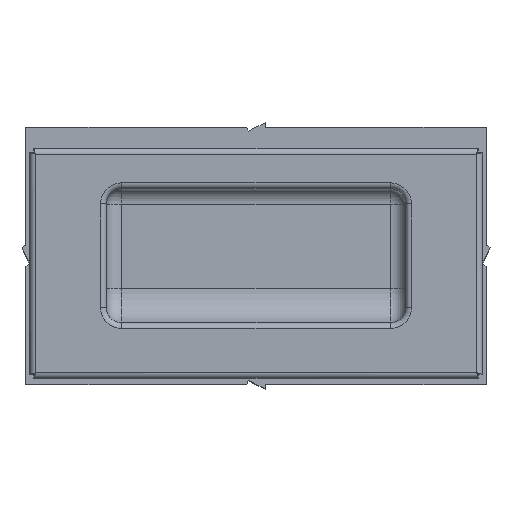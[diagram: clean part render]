
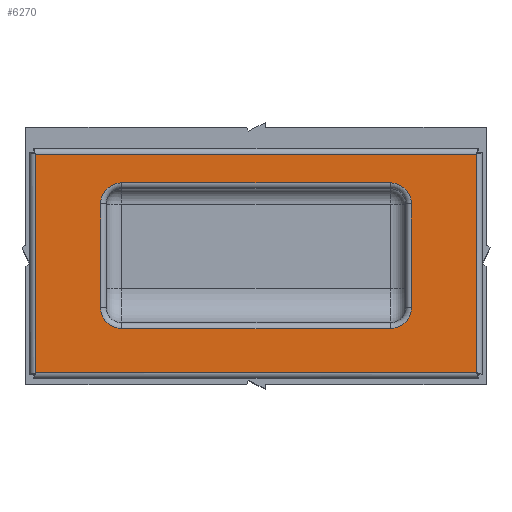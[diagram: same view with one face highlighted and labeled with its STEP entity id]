
A CAD part, top view. The second image highlights one B-rep face of the part: STEP entity #6270.
In plain terms, the highlighted planar face has unit normal (0, 0, 1).
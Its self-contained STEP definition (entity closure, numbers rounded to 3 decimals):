
#109 = VECTOR ( 'NONE', #6902, 1000. ) ;
#476 = VERTEX_POINT ( 'NONE', #10122 ) ;
#500 = LINE ( 'NONE', #9370, #109 ) ;
#526 = ORIENTED_EDGE ( 'NONE', *, *, #5071, .F. ) ;
#536 = EDGE_CURVE ( 'NONE', #12025, #10808, #15576, .T. ) ;
#777 = CARTESIAN_POINT ( 'NONE',  ( -35., -11.5, 0. ) ) ;
#1045 = DIRECTION ( 'NONE',  ( -1., 0., 0. ) ) ;
#1070 = ORIENTED_EDGE ( 'NONE', *, *, #7466, .F. ) ;
#1112 = CIRCLE ( 'NONE', #1736, 5.5 ) ;
#1206 = CARTESIAN_POINT ( 'NONE',  ( -40.5, 15.5, 0. ) ) ;
#1290 = CARTESIAN_POINT ( 'NONE',  ( 0., 0., 0. ) ) ;
#1736 = AXIS2_PLACEMENT_3D ( 'NONE', #15995, #8546, #1045 ) ;
#1941 = VERTEX_POINT ( 'NONE', #9751 ) ;
#2018 = DIRECTION ( 'NONE',  ( -1., 0., 0. ) ) ;
#2605 = EDGE_LOOP ( 'NONE', ( #11609, #12493, #6631, #9257, #526, #1070, #3554, #15631 ) ) ;
#2909 = CARTESIAN_POINT ( 'NONE',  ( -57.5, 28.5, 0. ) ) ;
#3024 = CARTESIAN_POINT ( 'NONE',  ( -35., 21., 0. ) ) ;
#3241 = ORIENTED_EDGE ( 'NONE', *, *, #10577, .T. ) ;
#3554 = ORIENTED_EDGE ( 'NONE', *, *, #7251, .F. ) ;
#3770 = VERTEX_POINT ( 'NONE', #3024 ) ;
#4092 = CARTESIAN_POINT ( 'NONE',  ( 0., 21., 0. ) ) ;
#4478 = LINE ( 'NONE', #4092, #14029 ) ;
#4699 = EDGE_CURVE ( 'NONE', #10808, #5893, #13835, .T. ) ;
#5045 = PLANE ( 'NONE',  #5169 ) ;
#5071 = EDGE_CURVE ( 'NONE', #8101, #3770, #4478, .T. ) ;
#5109 = CARTESIAN_POINT ( 'NONE',  ( 57.5, -28.5, 0. ) ) ;
#5169 = AXIS2_PLACEMENT_3D ( 'NONE', #1290, #13768, #6314 ) ;
#5472 = DIRECTION ( 'NONE',  ( 0., -1., 0. ) ) ;
#5630 = VECTOR ( 'NONE', #13966, 1000. ) ;
#5726 = CARTESIAN_POINT ( 'NONE',  ( -57.5, -28.5, 0. ) ) ;
#5752 = CARTESIAN_POINT ( 'NONE',  ( 0., -17., 0. ) ) ;
#5793 = CARTESIAN_POINT ( 'NONE',  ( 40.5, 15.5, 0. ) ) ;
#5893 = VERTEX_POINT ( 'NONE', #5726 ) ;
#6097 = LINE ( 'NONE', #5109, #9442 ) ;
#6270 = ADVANCED_FACE ( 'NONE', ( #7999, #11700 ), #5045, .F. ) ;
#6314 = DIRECTION ( 'NONE',  ( -1., 0., 0. ) ) ;
#6435 = CARTESIAN_POINT ( 'NONE',  ( 57.5, -28.5, 0. ) ) ;
#6631 = ORIENTED_EDGE ( 'NONE', *, *, #7302, .F. ) ;
#6696 = DIRECTION ( 'NONE',  ( 0., 0., 1. ) ) ;
#6902 = DIRECTION ( 'NONE',  ( 1., 0., 0. ) ) ;
#6967 = CARTESIAN_POINT ( 'NONE',  ( 40.5, 0., 0. ) ) ;
#6982 = CARTESIAN_POINT ( 'NONE',  ( -40.5, -11.5, 0. ) ) ;
#7028 = DIRECTION ( 'NONE',  ( 0., -1., 0. ) ) ;
#7043 = EDGE_CURVE ( 'NONE', #1941, #476, #10897, .T. ) ;
#7251 = EDGE_CURVE ( 'NONE', #476, #8129, #12637, .T. ) ;
#7302 = EDGE_CURVE ( 'NONE', #14895, #12193, #15157, .T. ) ;
#7466 = EDGE_CURVE ( 'NONE', #8129, #8101, #1112, .T. ) ;
#7624 = VECTOR ( 'NONE', #13213, 1000. ) ;
#7882 = DIRECTION ( 'NONE',  ( -1., 0., 0. ) ) ;
#7924 = DIRECTION ( 'NONE',  ( -1., 0., 0. ) ) ;
#7999 = FACE_OUTER_BOUND ( 'NONE', #13254, .T. ) ;
#8101 = VERTEX_POINT ( 'NONE', #10715 ) ;
#8129 = VERTEX_POINT ( 'NONE', #5793 ) ;
#8546 = DIRECTION ( 'NONE',  ( 0., 0., 1. ) ) ;
#8985 = CARTESIAN_POINT ( 'NONE',  ( 57.5, 28.5, 0. ) ) ;
#9257 = ORIENTED_EDGE ( 'NONE', *, *, #15574, .F. ) ;
#9370 = CARTESIAN_POINT ( 'NONE',  ( -57.5, -28.5, 0. ) ) ;
#9442 = VECTOR ( 'NONE', #11347, 1000. ) ;
#9482 = DIRECTION ( 'NONE',  ( 0., 1., 0. ) ) ;
#9524 = DIRECTION ( 'NONE',  ( 0., 0., 1. ) ) ;
#9737 = EDGE_CURVE ( 'NONE', #5893, #13121, #500, .T. ) ;
#9751 = CARTESIAN_POINT ( 'NONE',  ( 35., -17., 0. ) ) ;
#10122 = CARTESIAN_POINT ( 'NONE',  ( 40.5, -11.5, 0. ) ) ;
#10556 = VECTOR ( 'NONE', #5472, 1000. ) ;
#10577 = EDGE_CURVE ( 'NONE', #13121, #12025, #6097, .T. ) ;
#10591 = VERTEX_POINT ( 'NONE', #15089 ) ;
#10715 = CARTESIAN_POINT ( 'NONE',  ( 35., 21., 0. ) ) ;
#10808 = VERTEX_POINT ( 'NONE', #15692 ) ;
#10897 = CIRCLE ( 'NONE', #14891, 5.5 ) ;
#11347 = DIRECTION ( 'NONE',  ( 0., 1., 0. ) ) ;
#11595 = AXIS2_PLACEMENT_3D ( 'NONE', #777, #9524, #2018 ) ;
#11609 = ORIENTED_EDGE ( 'NONE', *, *, #14728, .F. ) ;
#11700 = FACE_BOUND ( 'NONE', #2605, .T. ) ;
#11951 = ORIENTED_EDGE ( 'NONE', *, *, #4699, .T. ) ;
#12025 = VERTEX_POINT ( 'NONE', #14259 ) ;
#12193 = VERTEX_POINT ( 'NONE', #6982 ) ;
#12256 = VECTOR ( 'NONE', #9482, 1000. ) ;
#12493 = ORIENTED_EDGE ( 'NONE', *, *, #15426, .F. ) ;
#12569 = ORIENTED_EDGE ( 'NONE', *, *, #9737, .T. ) ;
#12637 = LINE ( 'NONE', #6967, #12256 ) ;
#12865 = CIRCLE ( 'NONE', #11595, 5.5 ) ;
#13121 = VERTEX_POINT ( 'NONE', #6435 ) ;
#13213 = DIRECTION ( 'NONE',  ( 1., 0., 0. ) ) ;
#13254 = EDGE_LOOP ( 'NONE', ( #16113, #11951, #12569, #3241 ) ) ;
#13359 = CARTESIAN_POINT ( 'NONE',  ( -35., 15.5, 0. ) ) ;
#13768 = DIRECTION ( 'NONE',  ( 0., 0., -1. ) ) ;
#13829 = LINE ( 'NONE', #5752, #7624 ) ;
#13835 = LINE ( 'NONE', #2909, #10556 ) ;
#13966 = DIRECTION ( 'NONE',  ( -1., 0., 0. ) ) ;
#14029 = VECTOR ( 'NONE', #7882, 1000. ) ;
#14140 = CARTESIAN_POINT ( 'NONE',  ( 35., -11.5, 0. ) ) ;
#14259 = CARTESIAN_POINT ( 'NONE',  ( 57.5, 28.5, 0. ) ) ;
#14728 = EDGE_CURVE ( 'NONE', #10591, #1941, #13829, .T. ) ;
#14891 = AXIS2_PLACEMENT_3D ( 'NONE', #14140, #6696, #15401 ) ;
#14895 = VERTEX_POINT ( 'NONE', #1206 ) ;
#14906 = AXIS2_PLACEMENT_3D ( 'NONE', #13359, #15369, #7924 ) ;
#14991 = CIRCLE ( 'NONE', #14906, 5.5 ) ;
#15089 = CARTESIAN_POINT ( 'NONE',  ( -35., -17., 0. ) ) ;
#15157 = LINE ( 'NONE', #15724, #15560 ) ;
#15369 = DIRECTION ( 'NONE',  ( 0., 0., 1. ) ) ;
#15401 = DIRECTION ( 'NONE',  ( -1., 0., 0. ) ) ;
#15426 = EDGE_CURVE ( 'NONE', #12193, #10591, #12865, .T. ) ;
#15560 = VECTOR ( 'NONE', #7028, 1000. ) ;
#15574 = EDGE_CURVE ( 'NONE', #3770, #14895, #14991, .T. ) ;
#15576 = LINE ( 'NONE', #8985, #5630 ) ;
#15631 = ORIENTED_EDGE ( 'NONE', *, *, #7043, .F. ) ;
#15692 = CARTESIAN_POINT ( 'NONE',  ( -57.5, 28.5, 0. ) ) ;
#15724 = CARTESIAN_POINT ( 'NONE',  ( -40.5, 0., 0. ) ) ;
#15995 = CARTESIAN_POINT ( 'NONE',  ( 35., 15.5, 0. ) ) ;
#16113 = ORIENTED_EDGE ( 'NONE', *, *, #536, .T. ) ;
